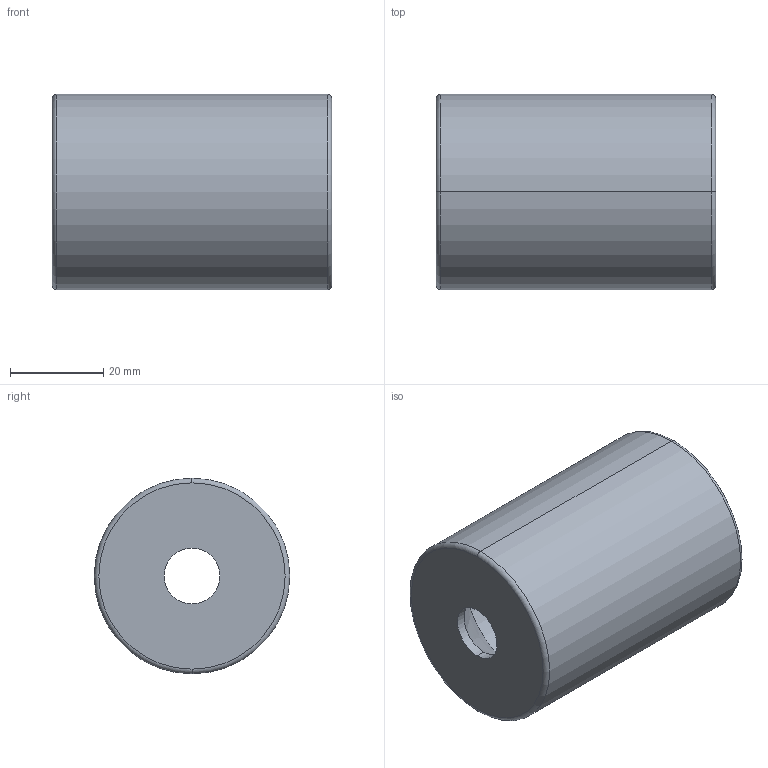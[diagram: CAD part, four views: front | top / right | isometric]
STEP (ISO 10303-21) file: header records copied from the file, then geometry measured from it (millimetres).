
FILE_DESCRIPTION (( 'STEP AP214' ), '1' );
FILE_NAME ('BR20 42x060.STEP', '2020-01-21T11:34:00', ( 'August' ), ( '' ), 'SwSTEP 2.0', 'SolidWorks 2018', '' );
FILE_SCHEMA (( 'AUTOMOTIVE_DESIGN' ));
Length unit declared in the file: millimetre
Products named in the file (1): BR20 42x060
Bounding box: 60 x 42 x 42 mm (x, y, z)
Volume: 35253.4 mm3; surface area: 15772.2 mm2
Topology: 1 solids, 1 shells, 14 faces, 28 edges, 16 vertices
Faces by surface type: cylinder 6, torus 4, cone 2, plane 2
Entity records: 406 total; most frequent: DIRECTION 78, CARTESIAN_POINT 59, ORIENTED_EDGE 56, AXIS2_PLACEMENT_3D 35, EDGE_CURVE 28, CIRCLE 20, VERTEX_POINT 16, EDGE_LOOP 16
